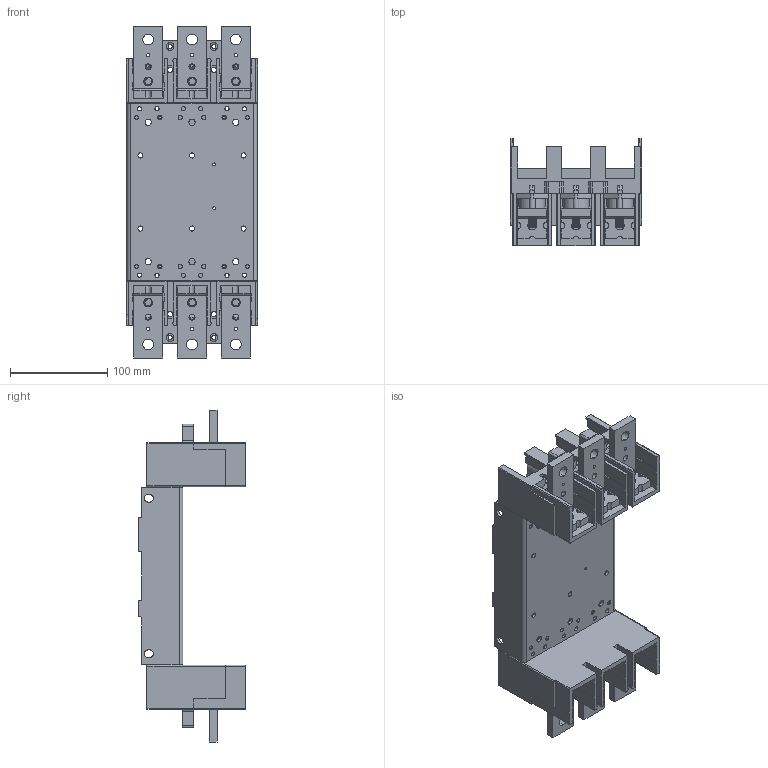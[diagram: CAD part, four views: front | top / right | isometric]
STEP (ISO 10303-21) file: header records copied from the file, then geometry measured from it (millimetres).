
FILE_DESCRIPTION((''),'2;1');
FILE_NAME('MZ2-630-TEM7_ASM','2025-04-07T10:46:02',('gaoleixiao'),(''),'CREO PARAMETRIC BY PTC INC, 2020354','CREO PARAMETRIC BY PTC INC, 2020354','');
FILE_SCHEMA(('CONFIG_CONTROL_DESIGN'));
Length unit declared in the file: millimetre
Products named in the file (10): WL8_551_029; 2WL5_024_162_ASM; WL8_325_037; M5_2_1_000; M5_2_2_-14174000; 1400; 2WL5_024_161_ASM; 3WL8_024_400; MZ2-630-TEM7_1_ASM; MZ2-630-TEM7_ASM
Assembly tree (21 placements, depth 4):
  MZ2-630-TEM7_ASM
    MZ2-630-TEM7_1_ASM
      WL8_551_029  x6
      2WL5_024_162_ASM  x2
      WL8_325_037  x4
      2WL5_024_161_ASM  x2
        M5_2_1_000
        M5_2_2_-14174000
        1400
      3WL8_024_400
    WL8_325_037  x2
Bounding box: 135 x 110.5 x 341 mm (x, y, z)
Volume: 779545 mm3; surface area: 356947.1 mm2
Topology: 19 solids, 19 shells, 1823 faces, 5161 edges, 3398 vertices
Faces by surface type: cylinder 907, plane 842, cone 44, torus 18, bspline 12
Entity records: 30848 total; most frequent: CARTESIAN_POINT 10014, ORIENTED_EDGE 4342, DIRECTION 4280, EDGE_CURVE 2171, VERTEX_POINT 1430, AXIS2_PLACEMENT_3D 1427, VECTOR 1426, LINE 1426
